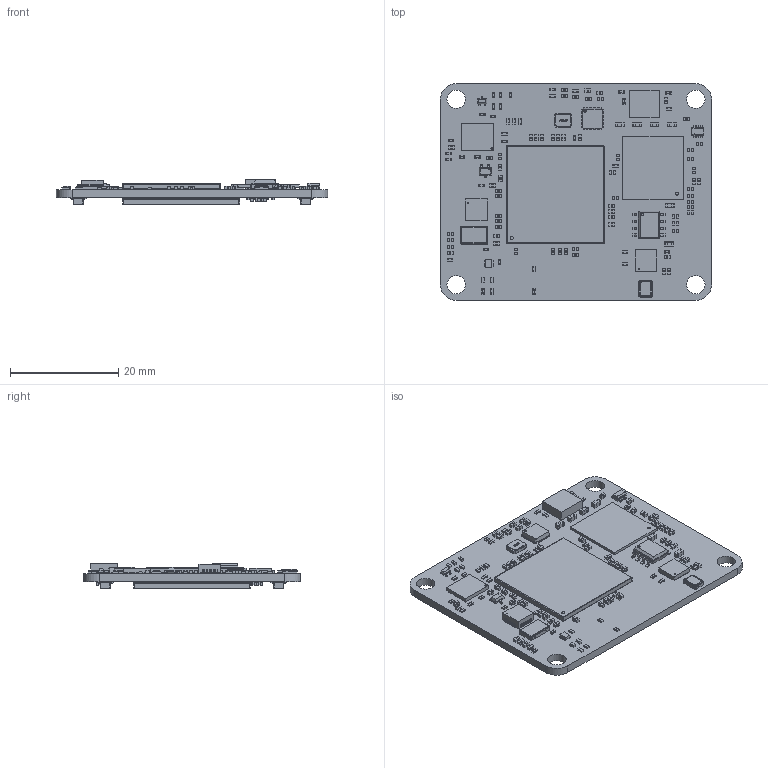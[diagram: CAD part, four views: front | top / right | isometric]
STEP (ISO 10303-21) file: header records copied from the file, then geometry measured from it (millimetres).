
FILE_DESCRIPTION(('KiCad electronic assembly'),'2;1');
FILE_NAME('xlm3301-400-01_module.step','2025-08-07T14:03:10',('Pcbnew'), ('Kicad'),'Open CASCADE STEP processor 7.6','KiCad to STEP converter', 'Unknown');
FILE_SCHEMA(('AUTOMOTIVE_DESIGN { 1 0 10303 214 1 1 1 1 }'));
Length unit declared in the file: millimetre
Products named in the file (1361): xlm3301-400-01_module 1; C_0402_1005Metric; R_0402_1005Metric; Solid1; Solid2; Solid3; SI5338_QFN24_SIL; TOSHIBA_SSM6N35AFE_LF_ES6; Lead1; Lead6; Lead2; Lead3; Lead5; Lead4; Mold; LED_XZxx68x-2; EFINIX_FBGA_484; xlm3301-400-01_module 1.7.1; xlm3301-400-01_module 1.7.2; NTA7002NT1G_SOT-416_1P65X0P9; TI_LP2998MA; C_0603_1608Metric; SC70_3; BGA178_MT52L256_MRN; ECS-240-18-30B-CHN-TR; MICROCHIP_KSZ8081RNA_QFN24_4X4MC_MCH; MPS_MPM54322; xlm3301-400-01_module 1.31.1; WINBOND_W25Q128JVPIQ; MICROCHIP_USB3343-CP-TR; ABM8-26.000MHZ-D1G-T; NEXPERIA_SC-88-SOT363; EPSON_FA-238 25.0000MB-C0; DF40C-100DP; DF40C-100DP-0.4V; FB_0402_1005Metric; RNET_PAN_EXB-D10C470J; xlm3301_3302_module_PCB
Assembly tree (1525 placements, depth 3):
  xlm3301-400-01_module 1
    C_0402_1005Metric  x108
    R_0402_1005Metric  x47
      Solid1
      Solid2
      Solid2
      Solid3
    SI5338_QFN24_SIL
    TOSHIBA_SSM6N35AFE_LF_ES6
      Lead1
      Lead6
      Lead2
      Lead3
      Lead5
      Lead4
      Mold
    LED_XZxx68x-2  x4
    EFINIX_FBGA_484
      xlm3301-400-01_module 1.7.1
      xlm3301-400-01_module 1.7.2
    NTA7002NT1G_SOT-416_1P65X0P9
    TI_LP2998MA
    C_0603_1608Metric  x6
    SC70_3
    BGA178_MT52L256_MRN
    ECS-240-18-30B-CHN-TR
    MICROCHIP_KSZ8081RNA_QFN24_4X4MC_MCH
    MPS_MPM54322
      xlm3301-400-01_module 1.31.1
    WINBOND_W25Q128JVPIQ
    MICROCHIP_USB3343-CP-TR
    ABM8-26.000MHZ-D1G-T
    NEXPERIA_SC-88-SOT363
    EPSON_FA-238 25.0000MB-C0
    DF40C-100DP  x4
      DF40C-100DP-0.4V
      DF40C-100DP-0.4V
      DF40C-100DP-0.4V
      DF40C-100DP-0.4V
      DF40C-100DP-0.4V
      DF40C-100DP-0.4V
      DF40C-100DP-0.4V
      DF40C-100DP-0.4V
      DF40C-100DP-0.4V
      DF40C-100DP-0.4V
      DF40C-100DP-0.4V
      DF40C-100DP-0.4V
      DF40C-100DP-0.4V
      DF40C-100DP-0.4V
      DF40C-100DP-0.4V
      DF40C-100DP-0.4V
      DF40C-100DP-0.4V
      DF40C-100DP-0.4V
      DF40C-100DP-0.4V
      DF40C-100DP-0.4V
      DF40C-100DP-0.4V
      DF40C-100DP-0.4V
      DF40C-100DP-0.4V
      DF40C-100DP-0.4V
      DF40C-100DP-0.4V
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Bounding box: 50 x 40 x 4.61 mm (x, y, z)
Volume: 3594 mm3; surface area: 7692.2 mm2
Topology: 1010 solids, 6302 shells, 13450 faces, 50359 edges, 43670 vertices
Faces by surface type: bspline 7240, plane 5510, cylinder 458, sphere 230, torus 12
Full cylindrical faces by diameter (mm): 0.067 x1, 0.083 x1, 0.11 x1, 0.198 x1, 0.199 x1, 0.555 x1, 3.4 x4
Entity records: 172514 total; most frequent: CARTESIAN_POINT 57981, ORIENTED_EDGE 18746, EDGE_CURVE 13319, DIRECTION 12913, VERTEX_POINT 11628, B_SPLINE_CURVE_WITH_KNOTS 6666, AXIS2_PLACEMENT_3D 4350, LINE 4213
